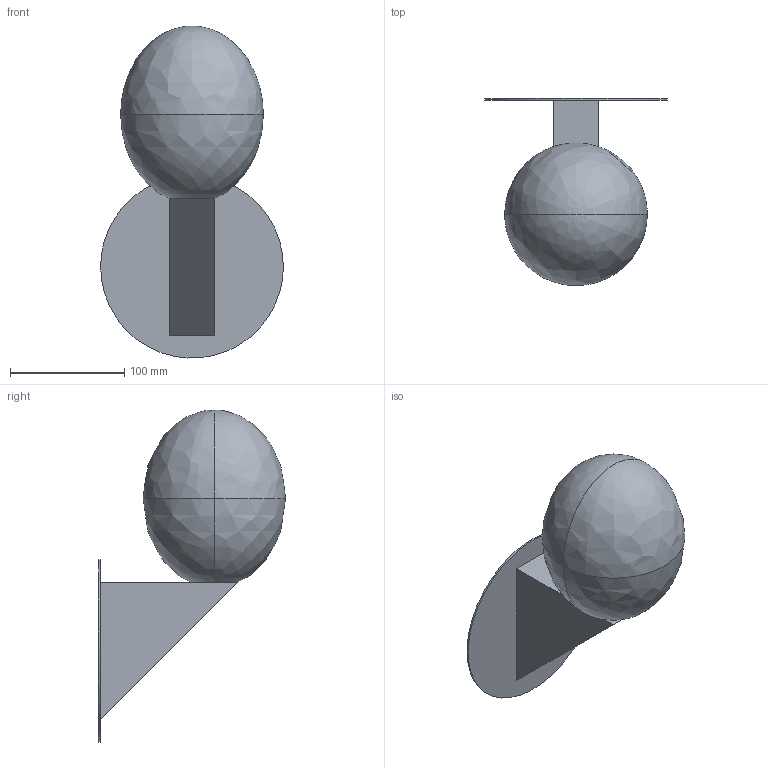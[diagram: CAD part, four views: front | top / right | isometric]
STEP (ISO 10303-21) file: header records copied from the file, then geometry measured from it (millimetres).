
FILE_DESCRIPTION(/* description */ (''),/* implementation_level */ '2;1');
FILE_NAME(/* name */ 'MA_The Philosophical Egg Collection Wall Mounted_120V_2019',/* time_stamp */ '2020-12-02T11:04:15+00:00',/* author */ (''),/* organization */ (''),/* preprocessor_version */ 'ST-DEVELOPER v15',/* originating_system */ '',/* authorisation */ '');
FILE_SCHEMA (('AUTOMOTIVE_DESIGN'));
Length unit declared in the file: millimetre
Products named in the file (1): Document
Bounding box: 160 x 163.89 x 290.74 mm (x, y, z)
Volume: 1586173.7 mm3; surface area: 117229.7 mm2
Topology: 1 solids, 1 shells, 12 faces, 26 edges, 17 vertices
Faces by surface type: bspline 7, plane 5
Entity records: 405 total; most frequent: CARTESIAN_POINT 223, ORIENTED_EDGE 46, EDGE_CURVE 23, VERTEX_POINT 15, EDGE_LOOP 14, ADVANCED_FACE 12, FACE_OUTER_BOUND 12, DIRECTION 11
